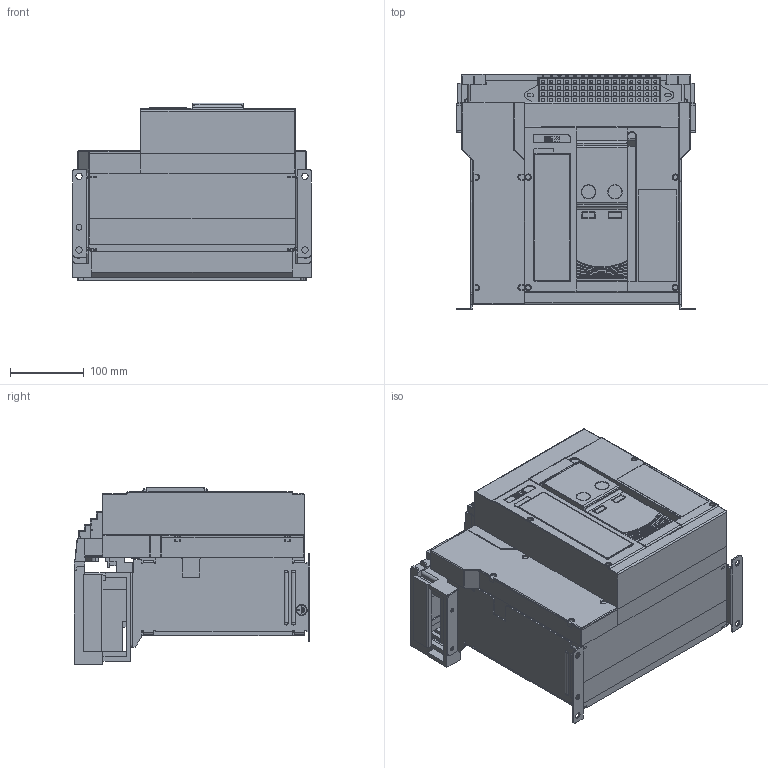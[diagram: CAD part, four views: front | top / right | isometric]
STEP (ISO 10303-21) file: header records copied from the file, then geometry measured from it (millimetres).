
FILE_DESCRIPTION (( 'STEP AP203' ), '1' );
FILE_NAME ('OptiMat A S1-630-1600-4P-F-H+.STEP', '2024-06-25T08:33:51', ( '' ), ( '' ), 'SwSTEP 2.0', 'SolidWorks 2018', '' );
FILE_SCHEMA (( 'CONFIG_CONTROL_DESIGN' ));
Products named in the file (1): OptiMat A S1-630-1600-4P-F-H+
Bounding box: 324 x 320 x 241.5 mm (x, y, z)
Surface area: 1042620.1 mm2 (no closed solid volume)
Topology: 0 solids, 144 shells, 1987 faces, 13043 edges, 11028 vertices
Faces by surface type: plane 1215, cylinder 626, bspline 79, torus 51, sphere 16
Entity records: 153868 total; most frequent: CARTESIAN_POINT 64044, ORIENTED_EDGE 16707, DIRECTION 14905, EDGE_CURVE 13034, VERTEX_POINT 11028, LINE 8849, VECTOR 8849, B_SPLINE_CURVE_WITH_KNOTS 3054
